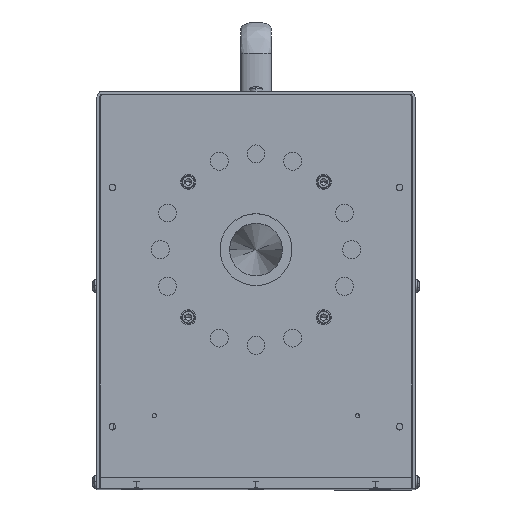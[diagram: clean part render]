
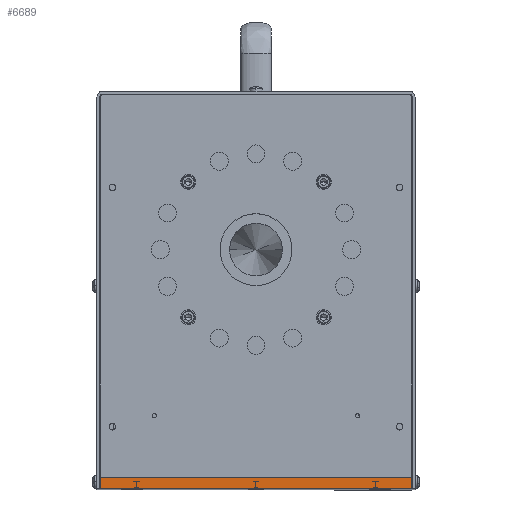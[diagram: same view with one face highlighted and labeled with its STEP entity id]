
A CAD part, top view. The second image highlights one B-rep face of the part: STEP entity #6689.
In plain terms, the highlighted planar face has unit normal (0, 0, 1).
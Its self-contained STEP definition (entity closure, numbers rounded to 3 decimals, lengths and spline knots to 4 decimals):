
#5501 = VECTOR ( 'NONE', #70506, 39.3701 ) ;
#6496 = LINE ( 'NONE', #54329, #26975 ) ;
#6637 = DIRECTION ( 'NONE',  ( 1., 0., 0. ) ) ;
#6689 = ADVANCED_FACE ( 'NONE', ( #87583 ), #105997, .F. ) ;
#7576 = ORIENTED_EDGE ( 'NONE', *, *, #122567, .F. ) ;
#14207 = CARTESIAN_POINT ( 'NONE',  ( 3.25, -4.2931, 0.3244 ) ) ;
#15009 = EDGE_LOOP ( 'NONE', ( #93366, #7576, #20552, #55539 ) ) ;
#18072 = CARTESIAN_POINT ( 'NONE',  ( 3.25, -4.0431, 0.3244 ) ) ;
#20552 = ORIENTED_EDGE ( 'NONE', *, *, #130007, .F. ) ;
#20752 = VECTOR ( 'NONE', #6637, 39.3701 ) ;
#26975 = VECTOR ( 'NONE', #54823, 39.3701 ) ;
#32002 = VERTEX_POINT ( 'NONE', #14207 ) ;
#34540 = VERTEX_POINT ( 'NONE', #62860 ) ;
#34863 = CARTESIAN_POINT ( 'NONE',  ( 3.25, -4.0431, 0.3244 ) ) ;
#46864 = DIRECTION ( 'NONE',  ( 0., 0., -1. ) ) ;
#52386 = LINE ( 'NONE', #18072, #20752 ) ;
#54329 = CARTESIAN_POINT ( 'NONE',  ( -3.25, -4.0431, 0.3244 ) ) ;
#54823 = DIRECTION ( 'NONE',  ( 0., 1., 0. ) ) ;
#55539 = ORIENTED_EDGE ( 'NONE', *, *, #99830, .F. ) ;
#58613 = EDGE_CURVE ( 'NONE', #129448, #32002, #89784, .T. ) ;
#61249 = LINE ( 'NONE', #128601, #5501 ) ;
#62860 = CARTESIAN_POINT ( 'NONE',  ( -3.25, -4.2931, 0.3244 ) ) ;
#66192 = AXIS2_PLACEMENT_3D ( 'NONE', #34863, #46864, #129808 ) ;
#70506 = DIRECTION ( 'NONE',  ( -1., 0., 0. ) ) ;
#76381 = VERTEX_POINT ( 'NONE', #133910 ) ;
#86713 = CARTESIAN_POINT ( 'NONE',  ( 3.25, -4.0431, 0.3244 ) ) ;
#87583 = FACE_OUTER_BOUND ( 'NONE', #15009, .T. ) ;
#87970 = DIRECTION ( 'NONE',  ( 0., -1., 0. ) ) ;
#89784 = LINE ( 'NONE', #147115, #117625 ) ;
#93366 = ORIENTED_EDGE ( 'NONE', *, *, #58613, .F. ) ;
#99830 = EDGE_CURVE ( 'NONE', #32002, #34540, #61249, .T. ) ;
#105997 = PLANE ( 'NONE',  #66192 ) ;
#117625 = VECTOR ( 'NONE', #87970, 39.3701 ) ;
#122567 = EDGE_CURVE ( 'NONE', #76381, #129448, #52386, .T. ) ;
#128601 = CARTESIAN_POINT ( 'NONE',  ( 3.25, -4.2931, 0.3244 ) ) ;
#129448 = VERTEX_POINT ( 'NONE', #86713 ) ;
#129808 = DIRECTION ( 'NONE',  ( -1., 0., 0. ) ) ;
#130007 = EDGE_CURVE ( 'NONE', #34540, #76381, #6496, .T. ) ;
#133910 = CARTESIAN_POINT ( 'NONE',  ( -3.25, -4.0431, 0.3244 ) ) ;
#147115 = CARTESIAN_POINT ( 'NONE',  ( 3.25, -4.0431, 0.3244 ) ) ;
